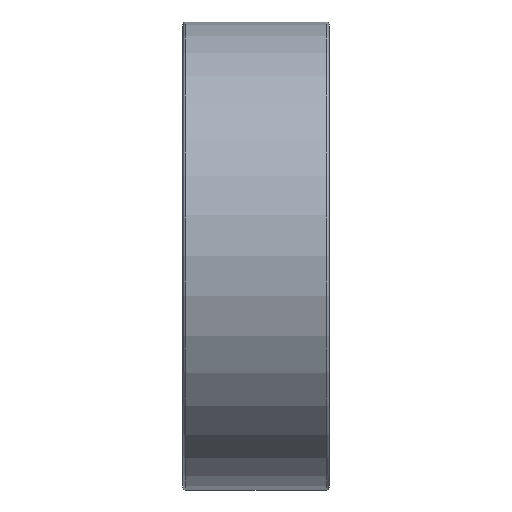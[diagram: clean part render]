
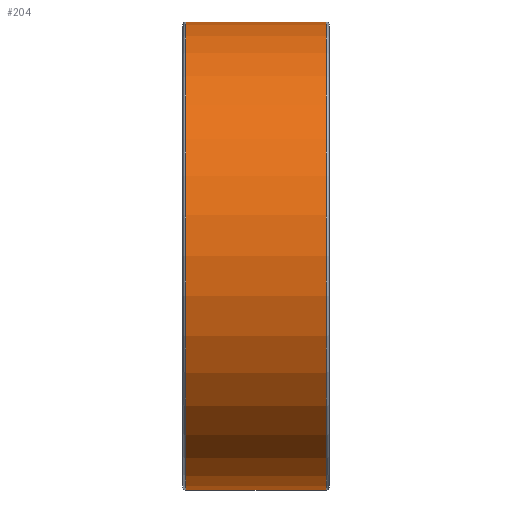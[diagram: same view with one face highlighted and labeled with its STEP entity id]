
A CAD part, top view. The second image highlights one B-rep face of the part: STEP entity #204.
In plain terms, the highlighted cylindrical face has radius 8 mm (diameter 16 mm), a partial arc.
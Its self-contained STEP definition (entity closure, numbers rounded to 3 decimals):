
#49 = ORIENTED_EDGE ( 'NONE', *, *, #58, .F. ) ;
#58 = EDGE_CURVE ( 'NONE', #163, #97, #434, .T. ) ;
#60 = ORIENTED_EDGE ( 'NONE', *, *, #228, .T. ) ;
#66 = EDGE_CURVE ( 'NONE', #168, #144, #417, .T. ) ;
#97 = VERTEX_POINT ( 'NONE', #491 ) ;
#107 = ORIENTED_EDGE ( 'NONE', *, *, #66, .T. ) ;
#144 = VERTEX_POINT ( 'NONE', #590 ) ;
#163 = VERTEX_POINT ( 'NONE', #664 ) ;
#168 = VERTEX_POINT ( 'NONE', #672 ) ;
#170 = EDGE_CURVE ( 'NONE', #163, #168, #639, .T. ) ;
#204 = ADVANCED_FACE ( 'NONE', ( #713 ), #755, .T. ) ;
#205 = ORIENTED_EDGE ( 'NONE', *, *, #170, .T. ) ;
#209 = EDGE_LOOP ( 'NONE', ( #205, #107, #60, #49 ) ) ;
#228 = EDGE_CURVE ( 'NONE', #144, #97, #783, .T. ) ;
#417 = LINE ( 'NONE', #428, #427 ) ;
#426 = DIRECTION ( 'NONE',  ( -1., 0., 0. ) ) ;
#427 = VECTOR ( 'NONE', #426, 1000. ) ;
#428 = CARTESIAN_POINT ( 'NONE',  ( 0., 8., 0. ) ) ;
#432 = DIRECTION ( 'NONE',  ( -1., 0., 0. ) ) ;
#433 = VECTOR ( 'NONE', #432, 1000. ) ;
#434 = LINE ( 'NONE', #445, #433 ) ;
#445 = CARTESIAN_POINT ( 'NONE',  ( 0., -8., 0. ) ) ;
#491 = CARTESIAN_POINT ( 'NONE',  ( 0.1, -8., 0. ) ) ;
#590 = CARTESIAN_POINT ( 'NONE',  ( 0.1, 8., 0. ) ) ;
#639 = CIRCLE ( 'NONE', #703, 8. ) ;
#664 = CARTESIAN_POINT ( 'NONE',  ( 4.9, -8., 0. ) ) ;
#672 = CARTESIAN_POINT ( 'NONE',  ( 4.9, 8., 0. ) ) ;
#700 = DIRECTION ( 'NONE',  ( 0., -1., 0. ) ) ;
#701 = DIRECTION ( 'NONE',  ( -1., 0., 0. ) ) ;
#702 = CARTESIAN_POINT ( 'NONE',  ( 4.9, 0., 0. ) ) ;
#703 = AXIS2_PLACEMENT_3D ( 'NONE', #702, #701, #700 ) ;
#713 = FACE_OUTER_BOUND ( 'NONE', #209, .T. ) ;
#749 = DIRECTION ( 'NONE',  ( 0., -1., 0. ) ) ;
#750 = DIRECTION ( 'NONE',  ( -1., 0., 0. ) ) ;
#751 = CARTESIAN_POINT ( 'NONE',  ( 0., 0., 0. ) ) ;
#755 = CYLINDRICAL_SURFACE ( 'NONE', #760, 8. ) ;
#760 = AXIS2_PLACEMENT_3D ( 'NONE', #751, #750, #749 ) ;
#767 = DIRECTION ( 'NONE',  ( 0., 1., 0. ) ) ;
#768 = DIRECTION ( 'NONE',  ( 1., 0., 0. ) ) ;
#769 = AXIS2_PLACEMENT_3D ( 'NONE', #784, #768, #767 ) ;
#783 = CIRCLE ( 'NONE', #769, 8. ) ;
#784 = CARTESIAN_POINT ( 'NONE',  ( 0.1, 0., 0. ) ) ;
